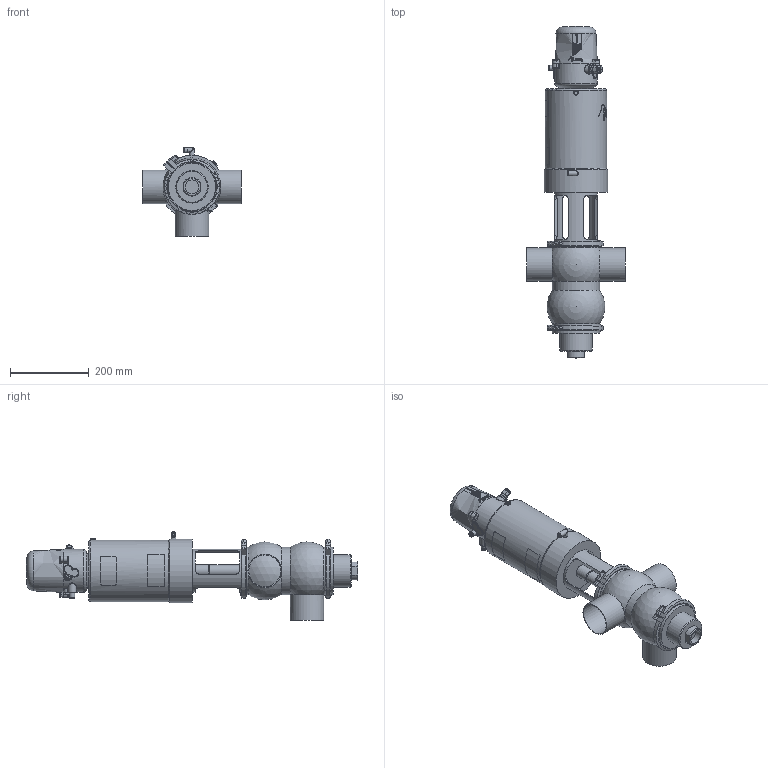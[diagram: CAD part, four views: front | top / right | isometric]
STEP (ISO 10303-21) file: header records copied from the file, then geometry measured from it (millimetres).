
FILE_DESCRIPTION (( 'STEP AP214' ), '1' );
FILE_NAME ('INNOVA S AB-90 W DIN 080 & C-TOP S_10.251.16.0011.STEP', '2024-08-19T11:01:29', ( '' ), ( '' ), 'SwSTEP 2.0', 'SolidWorks 2023', '' );
FILE_SCHEMA (( 'AUTOMOTIVE_DESIGN' ));
Length unit declared in the file: millimetre
Products named in the file (7): 10.426.15.0001_C-TOP S - 1 EV; 10.251.15.0002_DN 080; 10.251.15.0001_DN 080; 10.251.15.0003_DIN 080; 10.250.15.0002_Type S T2; INNOVA S AB-90 W DIN 080 & C-TOP S_10.251.16.0011; 10.240.15.0001_DN 080
Assembly tree (7 placements, depth 2):
  INNOVA S AB-90 W DIN 080 & C-TOP S_10.251.16.0011
    10.251.15.0001_DN 080
    10.250.15.0002_Type S T2
    10.426.15.0001_C-TOP S - 1 EV
    10.251.15.0003_DIN 080
    10.240.15.0001_DN 080  x2
    10.251.15.0002_DN 080
Bounding box: 250 x 842 x 224 mm (x, y, z)
Volume: 10491651.3 mm3; surface area: 657411.1 mm2
Topology: 7 solids, 7 shells, 1189 faces, 2883 edges, 1915 vertices
Faces by surface type: plane 413, cylinder 371, cone 202, bspline 160, torus 33, sphere 10
Full cylindrical faces by diameter (mm): 0.371 x17, 0.512 x16, 0.658 x16, 0.795 x16, 0.94 x15, 1.098 x15, 1.241 x13, 1.382 x13, 1.523 x11, 1.669 x10, 2.201 x1, 4.2 x2, 5 x1, 5.5 x2, 6 x3, 6.15 x1, 8 x5, 8.5 x1, 10 x1, 10.5 x2, 11 x2, 12.5 x6, 13 x2, 13.5 x2, 17 x3, 20 x2, 22 x2, 30.5 x1, 32 x1, 35 x1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
Entity records: 59439 total; most frequent: CARTESIAN_POINT 28560, ORIENTED_EDGE 4608, DIRECTION 3715, EDGE_CURVE 2304, VERTEX_POINT 1630, EDGE_LOOP 1582, AXIS2_PLACEMENT_3D 1518, FACE_OUTER_BOUND 1344
